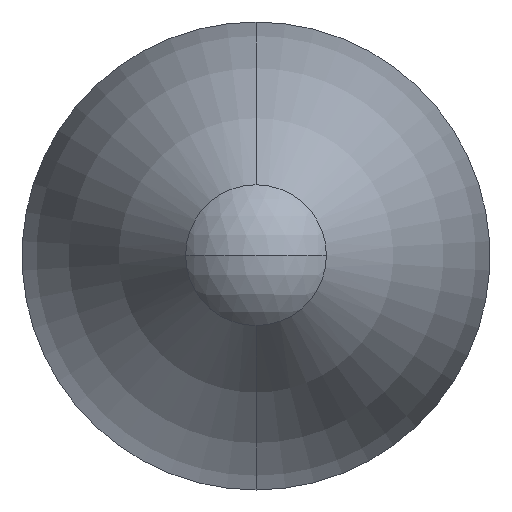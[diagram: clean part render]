
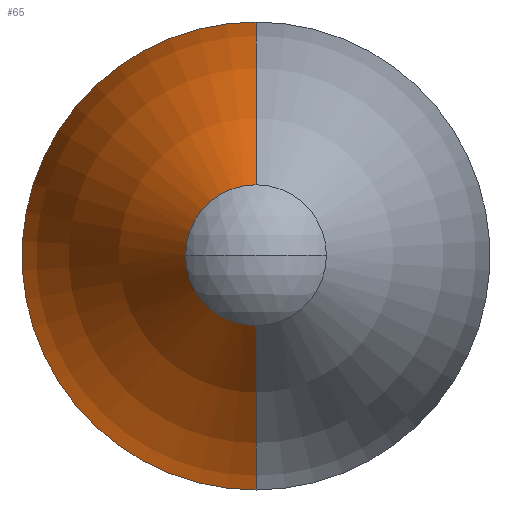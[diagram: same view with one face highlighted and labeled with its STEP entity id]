
A CAD part, top view. The second image highlights one B-rep face of the part: STEP entity #65.
In plain terms, the highlighted toroidal (fillet/blend) face has major radius 20 mm and minor radius 28 mm.
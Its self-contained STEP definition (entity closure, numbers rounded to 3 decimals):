
#13 = CARTESIAN_POINT ( 'NONE',  ( 0., 0., 48.8 ) ) ;
#25 = EDGE_CURVE ( 'NONE', #591, #161, #489, .T. ) ;
#30 = CARTESIAN_POINT ( 'NONE',  ( 0., -2.4, 48.8 ) ) ;
#35 = EDGE_CURVE ( 'NONE', #161, #43, #403, .T. ) ;
#43 = VERTEX_POINT ( 'NONE', #30 ) ;
#51 = AXIS2_PLACEMENT_3D ( 'NONE', #13, #55, #243 ) ;
#55 = DIRECTION ( 'NONE',  ( 0., 0., 1. ) ) ;
#61 = DIRECTION ( 'NONE',  ( 0., 0., 1. ) ) ;
#64 = CARTESIAN_POINT ( 'NONE',  ( 0., -20., 32. ) ) ;
#65 = ADVANCED_FACE ( 'NONE', ( #449 ), #336, .T. ) ;
#76 = EDGE_CURVE ( 'NONE', #591, #379, #90, .T. ) ;
#86 = CARTESIAN_POINT ( 'NONE',  ( 0., 20., 32. ) ) ;
#90 = CIRCLE ( 'NONE', #475, 28. ) ;
#106 = EDGE_LOOP ( 'NONE', ( #357, #523, #244, #540, #692 ) ) ;
#118 = CARTESIAN_POINT ( 'NONE',  ( 0., 0., 48.8 ) ) ;
#125 = DIRECTION ( 'NONE',  ( 0., -1., 0. ) ) ;
#128 = DIRECTION ( 'NONE',  ( 0., 0., 1. ) ) ;
#133 = AXIS2_PLACEMENT_3D ( 'NONE', #86, #467, #128 ) ;
#161 = VERTEX_POINT ( 'NONE', #177 ) ;
#165 = CARTESIAN_POINT ( 'NONE',  ( 0., 2.4, 48.8 ) ) ;
#177 = CARTESIAN_POINT ( 'NONE',  ( 0., -5.623, 20.711 ) ) ;
#220 = CIRCLE ( 'NONE', #51, 2.4 ) ;
#243 = DIRECTION ( 'NONE',  ( 0., -1., 0. ) ) ;
#244 = ORIENTED_EDGE ( 'NONE', *, *, #35, .T. ) ;
#266 = EDGE_CURVE ( 'NONE', #379, #490, #220, .T. ) ;
#280 = EDGE_CURVE ( 'NONE', #490, #43, #443, .T. ) ;
#288 = DIRECTION ( 'NONE',  ( 1., 0., 0. ) ) ;
#336 = TOROIDAL_SURFACE ( 'NONE', #558, -20., 28. ) ;
#337 = AXIS2_PLACEMENT_3D ( 'NONE', #118, #568, #607 ) ;
#342 = CARTESIAN_POINT ( 'NONE',  ( 0., 0., 32. ) ) ;
#357 = ORIENTED_EDGE ( 'NONE', *, *, #76, .F. ) ;
#360 = DIRECTION ( 'NONE',  ( 0., 0., 1. ) ) ;
#379 = VERTEX_POINT ( 'NONE', #165 ) ;
#403 = CIRCLE ( 'NONE', #133, 28. ) ;
#413 = CARTESIAN_POINT ( 'NONE',  ( 0., 5.623, 20.711 ) ) ;
#443 = CIRCLE ( 'NONE', #337, 2.4 ) ;
#449 = FACE_OUTER_BOUND ( 'NONE', #106, .T. ) ;
#467 = DIRECTION ( 'NONE',  ( -1., 0., 0. ) ) ;
#475 = AXIS2_PLACEMENT_3D ( 'NONE', #64, #288, #619 ) ;
#489 = CIRCLE ( 'NONE', #500, 5.623 ) ;
#490 = VERTEX_POINT ( 'NONE', #636 ) ;
#500 = AXIS2_PLACEMENT_3D ( 'NONE', #526, #360, #706 ) ;
#523 = ORIENTED_EDGE ( 'NONE', *, *, #25, .T. ) ;
#526 = CARTESIAN_POINT ( 'NONE',  ( 0., 0., 20.711 ) ) ;
#540 = ORIENTED_EDGE ( 'NONE', *, *, #280, .F. ) ;
#558 = AXIS2_PLACEMENT_3D ( 'NONE', #342, #61, #125 ) ;
#568 = DIRECTION ( 'NONE',  ( 0., 0., 1. ) ) ;
#591 = VERTEX_POINT ( 'NONE', #413 ) ;
#607 = DIRECTION ( 'NONE',  ( 0., -1., 0. ) ) ;
#619 = DIRECTION ( 'NONE',  ( 0., 1., 0. ) ) ;
#636 = CARTESIAN_POINT ( 'NONE',  ( -2.4, 0., 48.8 ) ) ;
#692 = ORIENTED_EDGE ( 'NONE', *, *, #266, .F. ) ;
#706 = DIRECTION ( 'NONE',  ( 0., -1., 0. ) ) ;
